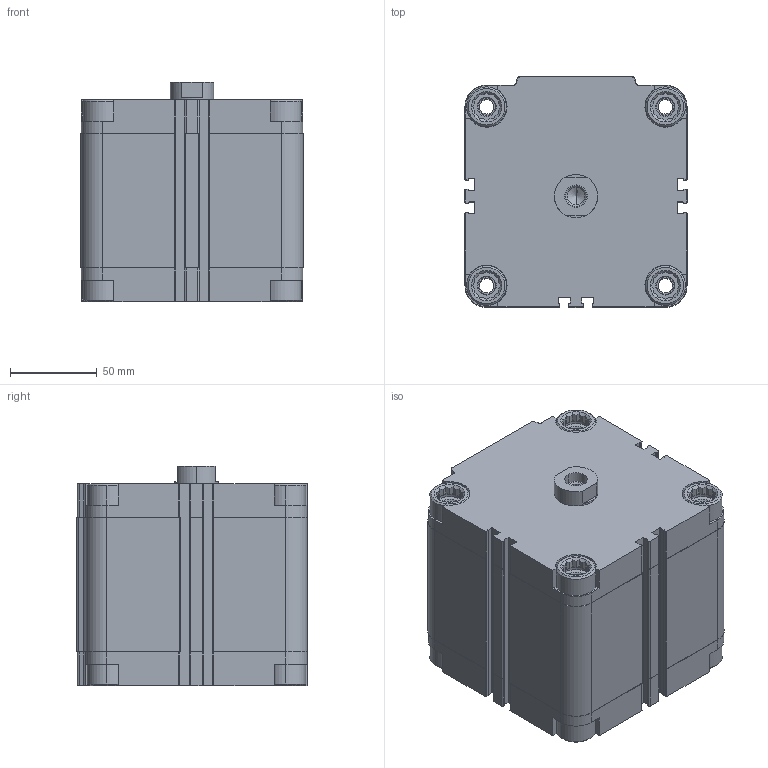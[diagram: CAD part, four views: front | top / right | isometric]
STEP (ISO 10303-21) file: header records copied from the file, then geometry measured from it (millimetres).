
FILE_DESCRIPTION (( 'STEP AP203' ), '1' );
FILE_NAME ('CDVU100-50F.STEP', '2020-03-30T15:05:52', ( '' ), ( '' ), 'SwSTEP 2.0', 'SolidWorks 2019', '' );
FILE_SCHEMA (( 'CONFIG_CONTROL_DESIGN' ));
Length unit declared in the file: millimetre
Products named in the file (1): CDVU100-50F
Bounding box: 128 x 133 x 126.5 mm (x, y, z)
Volume: 1466094.1 mm3; surface area: 190647.3 mm2
Topology: 2 solids, 2 shells, 657 faces, 1778 edges, 1167 vertices
Faces by surface type: plane 389, cylinder 206, cone 62
Entity records: 20873 total; most frequent: CARTESIAN_POINT 4173, ORIENTED_EDGE 3544, DIRECTION 3384, EDGE_CURVE 1772, VERTEX_POINT 1167, AXIS2_PLACEMENT_3D 1146, VECTOR 1092, LINE 1092
